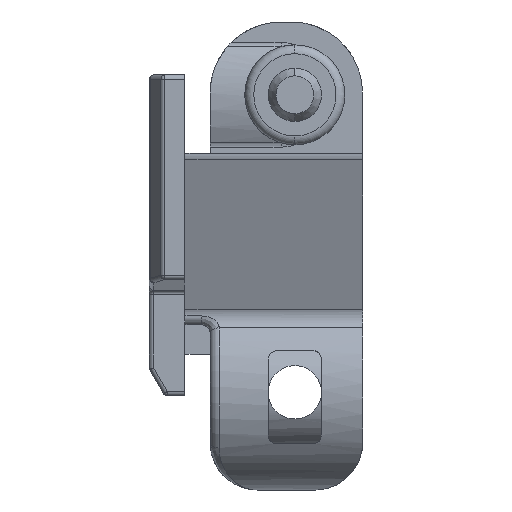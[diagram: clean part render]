
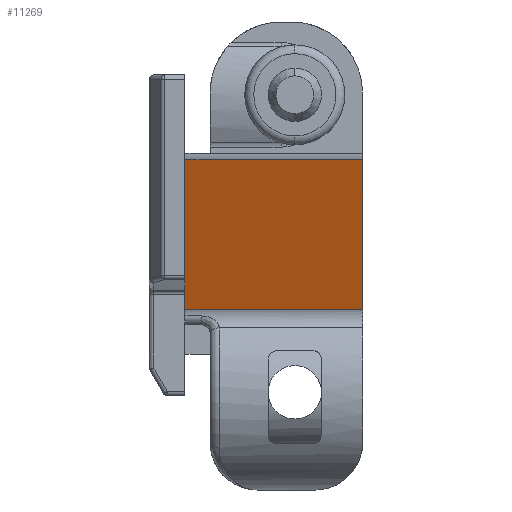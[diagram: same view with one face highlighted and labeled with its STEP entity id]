
A CAD part, left-side view. The second image highlights one B-rep face of the part: STEP entity #11269.
In plain terms, the highlighted planar face has unit normal (-0.934, 0, -0.358).
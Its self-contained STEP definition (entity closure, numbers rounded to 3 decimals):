
#456 = PLANE ( 'NONE',  #5464 ) ;
#1239 = DIRECTION ( 'NONE',  ( 0.358, 0., -0.934 ) ) ;
#1845 = EDGE_LOOP ( 'NONE', ( #5507, #9879, #11648, #12921 ) ) ;
#2666 = CARTESIAN_POINT ( 'NONE',  ( -13.193, -1.475, -1.517 ) ) ;
#2987 = CARTESIAN_POINT ( 'NONE',  ( -13.193, -1.475, -1.517 ) ) ;
#3379 = LINE ( 'NONE', #8847, #8895 ) ;
#3396 = EDGE_CURVE ( 'NONE', #15567, #11405, #6569, .T. ) ;
#4161 = LINE ( 'NONE', #2666, #6504 ) ;
#5062 = EDGE_CURVE ( 'NONE', #13420, #11405, #3379, .T. ) ;
#5128 = DIRECTION ( 'NONE',  ( 0., 1., 0. ) ) ;
#5464 = AXIS2_PLACEMENT_3D ( 'NONE', #2987, #5611, #14404 ) ;
#5507 = ORIENTED_EDGE ( 'NONE', *, *, #3396, .T. ) ;
#5611 = DIRECTION ( 'NONE',  ( 0.934, 0., 0.358 ) ) ;
#6504 = VECTOR ( 'NONE', #5128, 1000. ) ;
#6569 = LINE ( 'NONE', #10000, #9159 ) ;
#7624 = DIRECTION ( 'NONE',  ( 0., 1., 0. ) ) ;
#7860 = VERTEX_POINT ( 'NONE', #9520 ) ;
#8366 = CARTESIAN_POINT ( 'NONE',  ( -6.715, 18.525, -18.392 ) ) ;
#8383 = DIRECTION ( 'NONE',  ( 0.358, 0., -0.934 ) ) ;
#8411 = LINE ( 'NONE', #13479, #10040 ) ;
#8847 = CARTESIAN_POINT ( 'NONE',  ( -6.715, -1.475, -18.392 ) ) ;
#8895 = VECTOR ( 'NONE', #7624, 1000. ) ;
#9159 = VECTOR ( 'NONE', #1239, 1000. ) ;
#9520 = CARTESIAN_POINT ( 'NONE',  ( -13.193, -1.475, -1.517 ) ) ;
#9879 = ORIENTED_EDGE ( 'NONE', *, *, #5062, .F. ) ;
#10000 = CARTESIAN_POINT ( 'NONE',  ( -13.193, 18.525, -1.517 ) ) ;
#10040 = VECTOR ( 'NONE', #8383, 1000. ) ;
#11117 = EDGE_CURVE ( 'NONE', #7860, #15567, #4161, .T. ) ;
#11269 = ADVANCED_FACE ( 'NONE', ( #12646 ), #456, .F. ) ;
#11405 = VERTEX_POINT ( 'NONE', #8366 ) ;
#11648 = ORIENTED_EDGE ( 'NONE', *, *, #14499, .F. ) ;
#11738 = CARTESIAN_POINT ( 'NONE',  ( -6.715, -1.475, -18.392 ) ) ;
#12646 = FACE_OUTER_BOUND ( 'NONE', #1845, .T. ) ;
#12748 = CARTESIAN_POINT ( 'NONE',  ( -13.193, 18.525, -1.517 ) ) ;
#12921 = ORIENTED_EDGE ( 'NONE', *, *, #11117, .T. ) ;
#13420 = VERTEX_POINT ( 'NONE', #11738 ) ;
#13479 = CARTESIAN_POINT ( 'NONE',  ( -13.193, -1.475, -1.517 ) ) ;
#14404 = DIRECTION ( 'NONE',  ( 0.358, 0., -0.934 ) ) ;
#14499 = EDGE_CURVE ( 'NONE', #7860, #13420, #8411, .T. ) ;
#15567 = VERTEX_POINT ( 'NONE', #12748 ) ;
